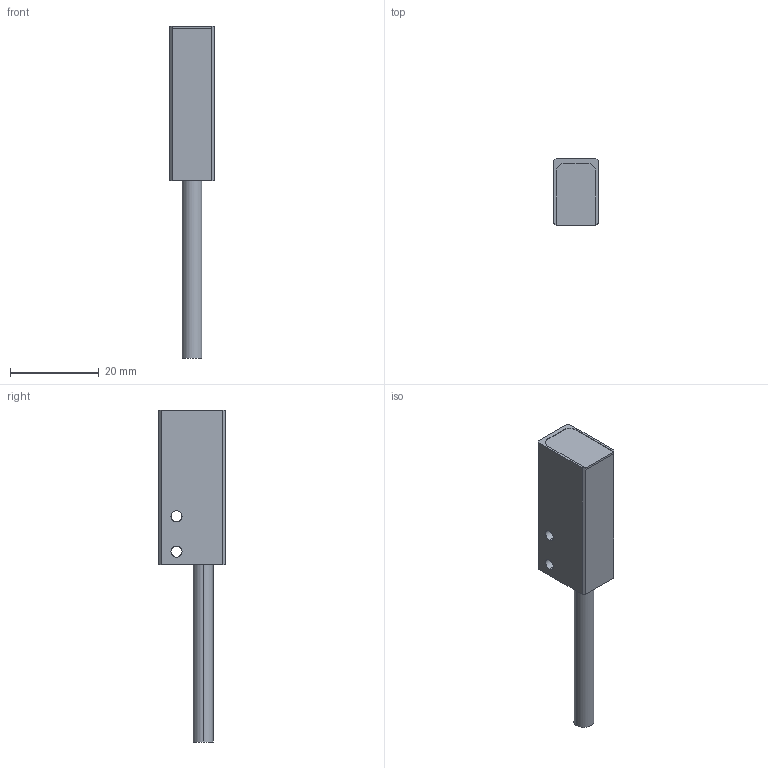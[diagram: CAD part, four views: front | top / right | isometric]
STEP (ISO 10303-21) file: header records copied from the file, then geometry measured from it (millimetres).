
FILE_DESCRIPTION (( 'STEP AP203' ), '1' );
FILE_NAME ('TMLS_mini_C.STEP', '2019-02-10T20:13:41', ( '' ), ( '' ), 'SwSTEP 2.0', 'SolidWorks 2014', '' );
FILE_SCHEMA (( 'CONFIG_CONTROL_DESIGN' ));
Length unit declared in the file: millimetre
Products named in the file (4): víèko mini TMLS; krabièka mini TMLS; TMLS_mini_C; Díl1^TMLS_mini_C
Assembly tree (3 placements, depth 2):
  TMLS_mini_C
    krabièka mini TMLS
    víèko mini TMLS
    Díl1^TMLS_mini_C
Bounding box: 10 x 15 x 75 mm (x, y, z)
Volume: 5315 mm3; surface area: 3436.4 mm2
Topology: 3 solids, 3 shells, 51 faces, 118 edges, 68 vertices
Faces by surface type: cylinder 24, plane 23, cone 4
Entity records: 1818 total; most frequent: CARTESIAN_POINT 263, DIRECTION 252, ORIENTED_EDGE 228, EDGE_CURVE 114, AXIS2_PLACEMENT_3D 89, LINE 74, VECTOR 74, VERTEX_POINT 68
